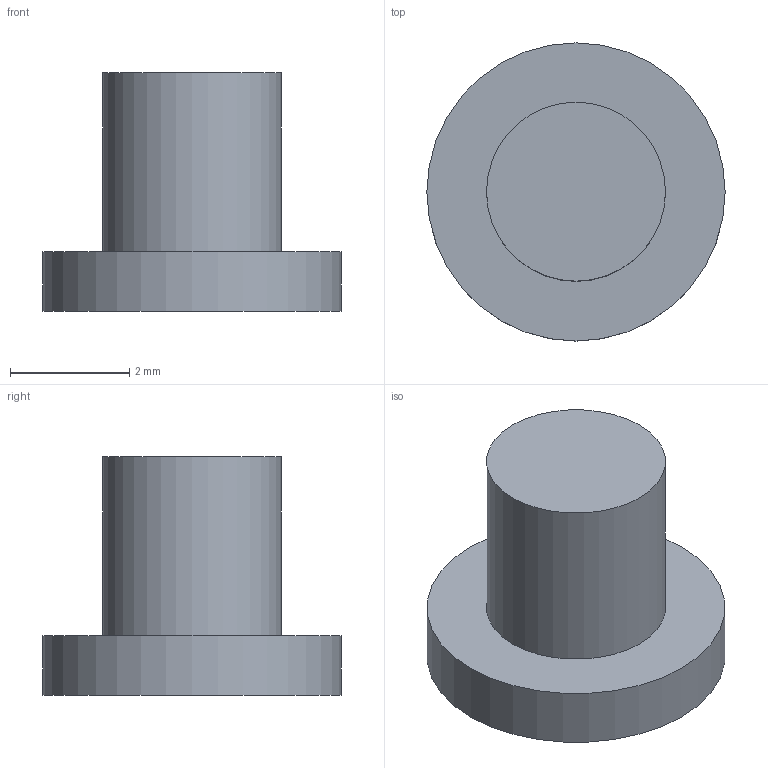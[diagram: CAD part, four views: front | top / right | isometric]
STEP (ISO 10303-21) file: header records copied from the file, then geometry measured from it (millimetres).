
FILE_DESCRIPTION(('Open CASCADE Model'),'2;1');
FILE_NAME('Open CASCADE Shape Model','2026-09-09T11:51:03',('Author'),( 'Open CASCADE'),'Open CASCADE STEP processor 7.7','Open CASCADE 7.7' ,'Unknown');
FILE_SCHEMA(('AUTOMOTIVE_DESIGN { 1 0 10303 214 1 1 1 1 }'));
Length unit declared in the file: millimetre
Products named in the file (1): Open CASCADE STEP translator 7.7 3
Bounding box: 5 x 5 x 4 mm (x, y, z)
Volume: 40.8 mm3; surface area: 83.3 mm2
Topology: 1 solids, 1 shells, 5 faces, 6 edges, 4 vertices
Faces by surface type: plane 3, cylinder 2
Full cylindrical faces by diameter (mm): 3 x1, 5 x1
Entity records: 192 total; most frequent: DIRECTION 34, CARTESIAN_POINT 28, ORIENTED_EDGE 12, PCURVE 12, DEFINITIONAL_REPRESENTATION 12, AXIS2_PLACEMENT_3D 10, LINE 10, VECTOR 10
